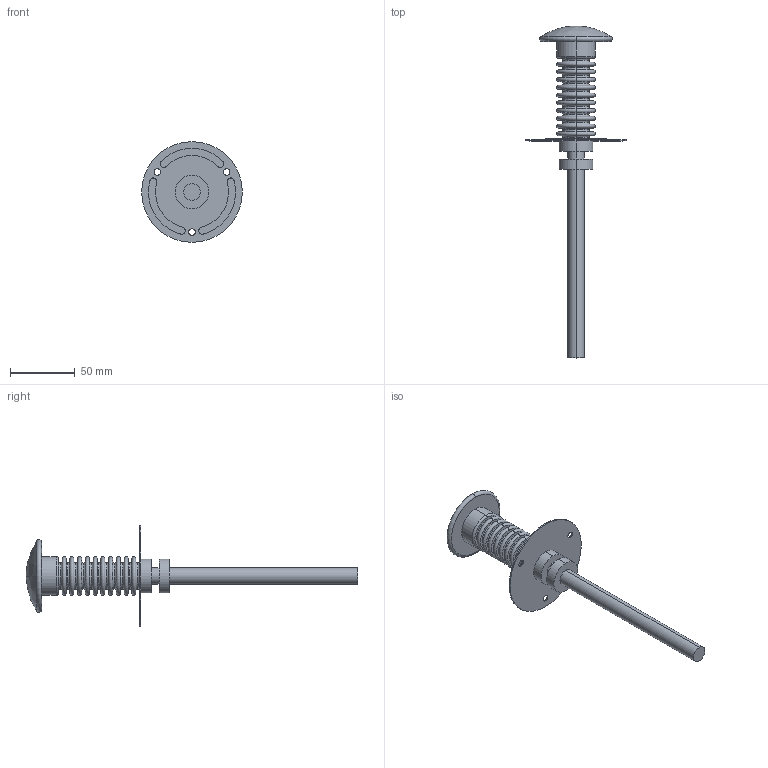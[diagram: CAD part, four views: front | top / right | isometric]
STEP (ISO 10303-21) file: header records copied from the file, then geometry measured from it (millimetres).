
FILE_DESCRIPTION (( 'STEP AP203' ), '1' );
FILE_NAME ('CT-1178-RELEASE PLUNGER.STEP', '2019-04-02T23:15:16', ( '' ), ( '' ), 'SwSTEP 2.0', 'SolidWorks 2018', '' );
FILE_SCHEMA (( 'CONFIG_CONTROL_DESIGN' ));
Length unit declared in the file: millimetre
Products named in the file (1): CT-1178-RELEASE PLUNGER
Bounding box: 78 x 257 x 78 mm (x, y, z)
Volume: 92208.9 mm3; surface area: 34714.1 mm2
Topology: 1 solids, 1 shells, 168 faces, 356 edges, 220 vertices
Faces by surface type: torus 100, plane 31, cylinder 18, cone 17, sphere 2
Entity records: 4754 total; most frequent: DIRECTION 1015, CARTESIAN_POINT 745, ORIENTED_EDGE 712, AXIS2_PLACEMENT_3D 490, EDGE_CURVE 356, CIRCLE 321, VERTEX_POINT 220, EDGE_LOOP 204
